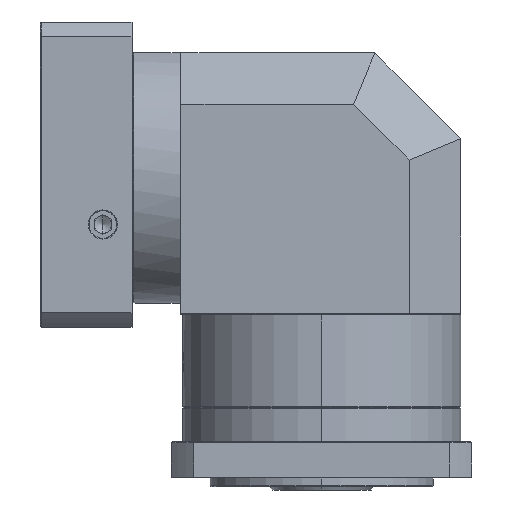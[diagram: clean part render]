
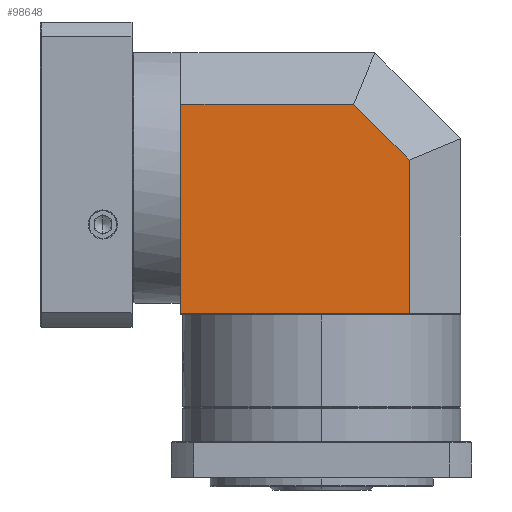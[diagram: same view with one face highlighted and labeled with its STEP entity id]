
A CAD part, left-side view. The second image highlights one B-rep face of the part: STEP entity #98648.
In plain terms, the highlighted planar face has unit normal (-1, 0, 0).
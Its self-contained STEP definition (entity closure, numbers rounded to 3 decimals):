
#1105 = VERTEX_POINT ( 'NONE', #28342 ) ;
#7406 = VECTOR ( 'NONE', #73357, 1000. ) ;
#9000 = VECTOR ( 'NONE', #119163, 1000. ) ;
#9641 = DIRECTION ( 'NONE',  ( -1., 0., 0. ) ) ;
#10542 = LINE ( 'NONE', #86254, #86884 ) ;
#13821 = DIRECTION ( 'NONE',  ( 0., 1., 0. ) ) ;
#18624 = VERTEX_POINT ( 'NONE', #126747 ) ;
#19821 = VERTEX_POINT ( 'NONE', #73777 ) ;
#21679 = ORIENTED_EDGE ( 'NONE', *, *, #41223, .T. ) ;
#28342 = CARTESIAN_POINT ( 'NONE',  ( -125.034, 81.708, 24.757 ) ) ;
#32909 = ORIENTED_EDGE ( 'NONE', *, *, #113840, .T. ) ;
#37186 = ORIENTED_EDGE ( 'NONE', *, *, #95682, .T. ) ;
#40529 = PLANE ( 'NONE',  #80821 ) ;
#41223 = EDGE_CURVE ( 'NONE', #18624, #1105, #10542, .T. ) ;
#43168 = LINE ( 'NONE', #108909, #66526 ) ;
#43885 = FACE_OUTER_BOUND ( 'NONE', #91392, .T. ) ;
#55720 = EDGE_CURVE ( 'NONE', #18624, #19821, #94452, .T. ) ;
#61390 = ORIENTED_EDGE ( 'NONE', *, *, #55720, .F. ) ;
#63690 = VERTEX_POINT ( 'NONE', #74205 ) ;
#64401 = ORIENTED_EDGE ( 'NONE', *, *, #123772, .F. ) ;
#66526 = VECTOR ( 'NONE', #119770, 1000. ) ;
#67032 = DIRECTION ( 'NONE',  ( 0., 0.707, 0.707 ) ) ;
#73357 = DIRECTION ( 'NONE',  ( 0., 0., -1. ) ) ;
#73406 = CARTESIAN_POINT ( 'NONE',  ( -125.034, 101.031, -96.943 ) ) ;
#73777 = CARTESIAN_POINT ( 'NONE',  ( -125.034, 49.281, -96.943 ) ) ;
#74205 = CARTESIAN_POINT ( 'NONE',  ( -125.034, 182.281, 24.757 ) ) ;
#80821 = AXIS2_PLACEMENT_3D ( 'NONE', #99815, #9641, #90602 ) ;
#86254 = CARTESIAN_POINT ( 'NONE',  ( -125.034, 49.281, -7.669 ) ) ;
#86884 = VECTOR ( 'NONE', #67032, 1000. ) ;
#90602 = DIRECTION ( 'NONE',  ( 0., 0., -1. ) ) ;
#91392 = EDGE_LOOP ( 'NONE', ( #37186, #64401, #61390, #21679, #32909 ) ) ;
#94452 = LINE ( 'NONE', #113958, #7406 ) ;
#95682 = EDGE_CURVE ( 'NONE', #63690, #104316, #118137, .T. ) ;
#98648 = ADVANCED_FACE ( 'NONE', ( #43885 ), #40529, .T. ) ;
#99815 = CARTESIAN_POINT ( 'NONE',  ( -125.034, 101.031, -21.343 ) ) ;
#104316 = VERTEX_POINT ( 'NONE', #105748 ) ;
#105748 = CARTESIAN_POINT ( 'NONE',  ( -125.034, 182.281, -96.943 ) ) ;
#108909 = CARTESIAN_POINT ( 'NONE',  ( -125.034, 101.031, 24.757 ) ) ;
#113840 = EDGE_CURVE ( 'NONE', #1105, #63690, #43168, .T. ) ;
#113958 = CARTESIAN_POINT ( 'NONE',  ( -125.034, 49.281, -21.343 ) ) ;
#116391 = VECTOR ( 'NONE', #13821, 1000. ) ;
#118137 = LINE ( 'NONE', #128359, #9000 ) ;
#119163 = DIRECTION ( 'NONE',  ( 0., 0., -1. ) ) ;
#119770 = DIRECTION ( 'NONE',  ( 0., 1., 0. ) ) ;
#123772 = EDGE_CURVE ( 'NONE', #19821, #104316, #124170, .T. ) ;
#124170 = LINE ( 'NONE', #73406, #116391 ) ;
#126747 = CARTESIAN_POINT ( 'NONE',  ( -125.034, 49.281, -7.669 ) ) ;
#128359 = CARTESIAN_POINT ( 'NONE',  ( -125.034, 182.281, -21.343 ) ) ;
